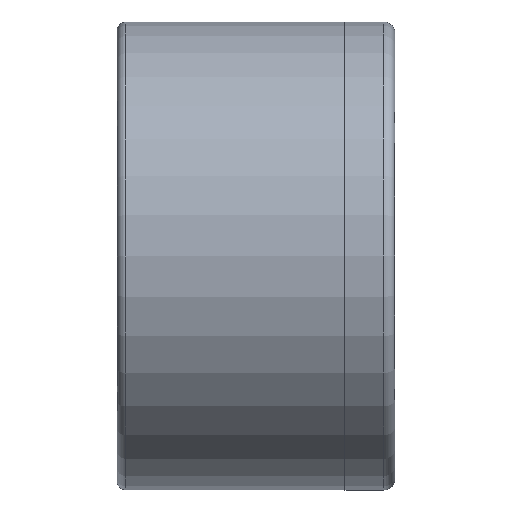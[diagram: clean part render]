
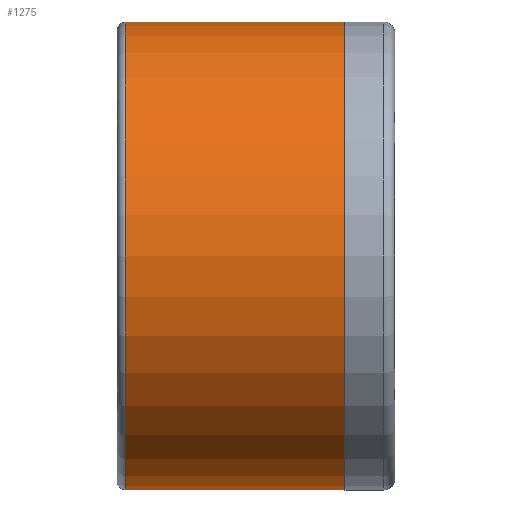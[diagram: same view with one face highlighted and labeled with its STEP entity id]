
A CAD part, left-side view. The second image highlights one B-rep face of the part: STEP entity #1275.
In plain terms, the highlighted cylindrical face has radius 21.1 mm (diameter 42.2 mm), a partial arc.
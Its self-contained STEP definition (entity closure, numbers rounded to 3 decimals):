
#98=FACE_OUTER_BOUND('',#181,.T.);
#181=EDGE_LOOP('',(#898,#899,#900,#901));
#266=LINE('',#2035,#358);
#272=LINE('',#2050,#364);
#358=VECTOR('',#1619,10.);
#364=VECTOR('',#1635,10.);
#444=CIRCLE('',#1382,21.1);
#450=CIRCLE('',#1396,21.1);
#538=VERTEX_POINT('',#2014);
#539=VERTEX_POINT('',#2018);
#543=VERTEX_POINT('',#2034);
#547=VERTEX_POINT('',#2048);
#653=EDGE_CURVE('',#539,#538,#444,.T.);
#660=EDGE_CURVE('',#543,#538,#266,.T.);
#668=EDGE_CURVE('',#539,#547,#272,.T.);
#669=EDGE_CURVE('',#543,#547,#450,.T.);
#898=ORIENTED_EDGE('',*,*,#653,.F.);
#899=ORIENTED_EDGE('',*,*,#668,.T.);
#900=ORIENTED_EDGE('',*,*,#669,.F.);
#901=ORIENTED_EDGE('',*,*,#660,.T.);
#1151=CYLINDRICAL_SURFACE('',#1402,21.1);
#1275=ADVANCED_FACE('',(#98),#1151,.T.);
#1382=AXIS2_PLACEMENT_3D('',#2020,#1600,#1601);
#1396=AXIS2_PLACEMENT_3D('',#2052,#1638,#1639);
#1402=AXIS2_PLACEMENT_3D('',#2065,#1655,#1656);
#1600=DIRECTION('center_axis',(0.,1.,0.));
#1601=DIRECTION('ref_axis',(-1.,0.,0.));
#1619=DIRECTION('',(0.,1.,0.));
#1635=DIRECTION('',(0.,-1.,0.));
#1638=DIRECTION('center_axis',(0.,-1.,0.));
#1639=DIRECTION('ref_axis',(0.,0.,1.));
#1655=DIRECTION('center_axis',(0.,-1.,0.));
#1656=DIRECTION('ref_axis',(0.,0.,1.));
#2014=CARTESIAN_POINT('',(61.68,-0.75,21.1));
#2018=CARTESIAN_POINT('',(61.68,-0.75,-21.1));
#2020=CARTESIAN_POINT('Origin',(61.68,-0.75,0.));
#2034=CARTESIAN_POINT('',(61.68,-20.5,21.1));
#2035=CARTESIAN_POINT('',(61.68,-20.5,21.1));
#2048=CARTESIAN_POINT('',(61.68,-20.5,-21.1));
#2050=CARTESIAN_POINT('',(61.68,-20.5,-21.1));
#2052=CARTESIAN_POINT('Origin',(61.68,-20.5,0.));
#2065=CARTESIAN_POINT('Origin',(61.68,-10.25,0.));
